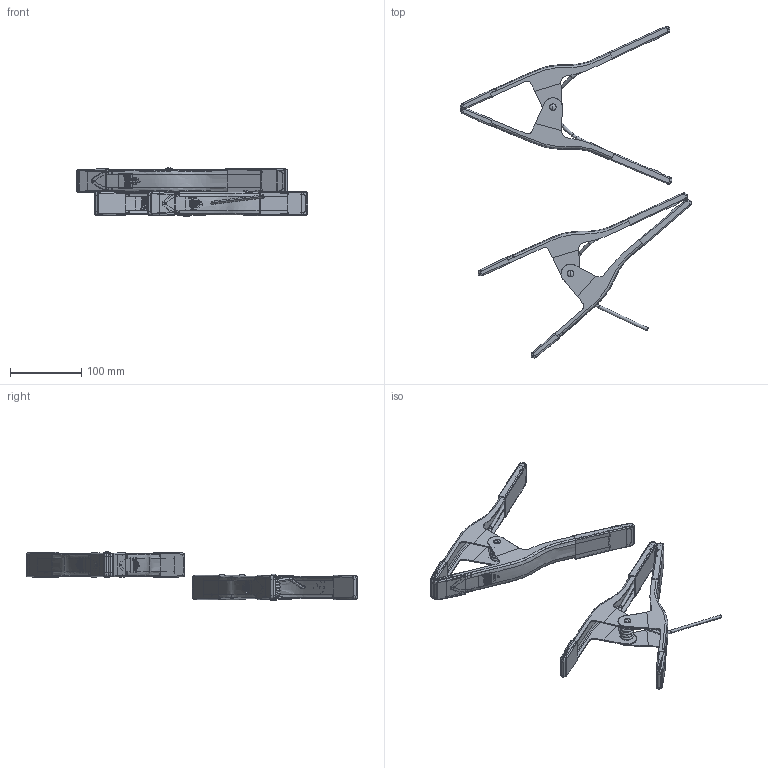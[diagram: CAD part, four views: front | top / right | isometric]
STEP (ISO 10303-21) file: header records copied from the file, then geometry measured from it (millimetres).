
FILE_DESCRIPTION((''),'2;1');
FILE_NAME('GS-JIAZI-4_ASM','2016-09-28T',('075_kfb'),(''),'PRO/ENGINEER BY PARAMETRIC TECHNOLOGY CORPORATION, 2010280','PRO/ENGINEER BY PARAMETRIC TECHNOLOGY CORPORATION, 2010280','');
FILE_SCHEMA(('AUTOMOTIVE_DESIGN_CC2 { 1 2 10303 214 -1 1 5 2 }'));
Products named in the file (15): MST-JZ-4S; XD-5; HUTAO-4-H; HUATAO-4-Q; TANHUANG-4; MST-JZ-4X; MST-JZ-4S_41; XD-5_3; HUTAO-4-H_9; HUATAO-4-Q_5; TANHUANG-4_7; MST-JZ-4X_6; GS-JIAZI-4_ASM_49_ASM; GS-JIAZI-4_ASM_ASM; GS-JIAZI-4_ASM
Assembly tree (18 placements, depth 4):
  GS-JIAZI-4_ASM
    MST-JZ-4S
    XD-5
    HUTAO-4-H  x2
    HUATAO-4-Q  x2
    TANHUANG-4
    MST-JZ-4X
    GS-JIAZI-4_ASM_ASM
      GS-JIAZI-4_ASM_49_ASM
        MST-JZ-4S_41
        XD-5_3
        HUTAO-4-H_9  x2
        HUATAO-4-Q_5  x2
        TANHUANG-4_7
        MST-JZ-4X_6
Bounding box: 323.94 x 465.16 x 67.95 mm (x, y, z)
Volume: 191468.1 mm3; surface area: 250783.5 mm2
Topology: 16 solids, 16 shells, 2608 faces, 6861 edges, 4345 vertices
Faces by surface type: plane 1088, bspline 638, cylinder 500, extrusion 252, torus 92, sphere 36, revolution 2
Entity records: 141095 total; most frequent: CARTESIAN_POINT 77615, ORIENTED_EDGE 13034, DIRECTION 7716, EDGE_CURVE 6517, VERTEX_POINT 4159, B_SPLINE_CURVE_WITH_KNOTS 3624, PRESENTATION_STYLE_ASSIGNMENT 3374, STYLED_ITEM 3374
